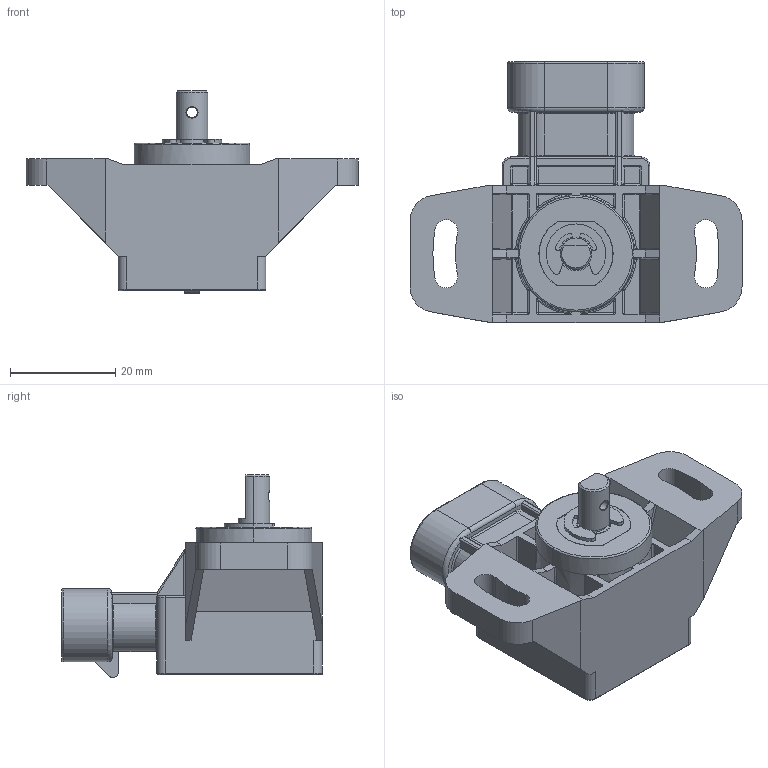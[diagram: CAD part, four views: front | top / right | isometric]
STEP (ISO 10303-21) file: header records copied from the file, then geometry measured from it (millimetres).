
FILE_DESCRIPTION (( 'STEP AP203' ), '1' );
FILE_NAME ('GR3PA S5E1HS xxx xxxx X0.STEP', '2024-12-19T15:12:36', ( '' ), ( '' ), 'SwSTEP 2.0', 'SolidWorks 2024', '' );
FILE_SCHEMA (( 'CONFIG_CONTROL_DESIGN' ));
Length unit declared in the file: millimetre
Products named in the file (1): GR3PA S5E1HS xxx xxxx X0
Bounding box: 63 x 49.5 x 38.47 mm (x, y, z)
Volume: 25301.2 mm3; surface area: 12831.1 mm2
Topology: 7 solids, 7 shells, 536 faces, 1322 edges, 783 vertices
Faces by surface type: plane 213, cylinder 188, bspline 46, sphere 40, torus 36, cone 13
Entity records: 18272 total; most frequent: CARTESIAN_POINT 5934, ORIENTED_EDGE 2572, DIRECTION 2549, EDGE_CURVE 1286, AXIS2_PLACEMENT_3D 933, VERTEX_POINT 783, VECTOR 683, LINE 683
